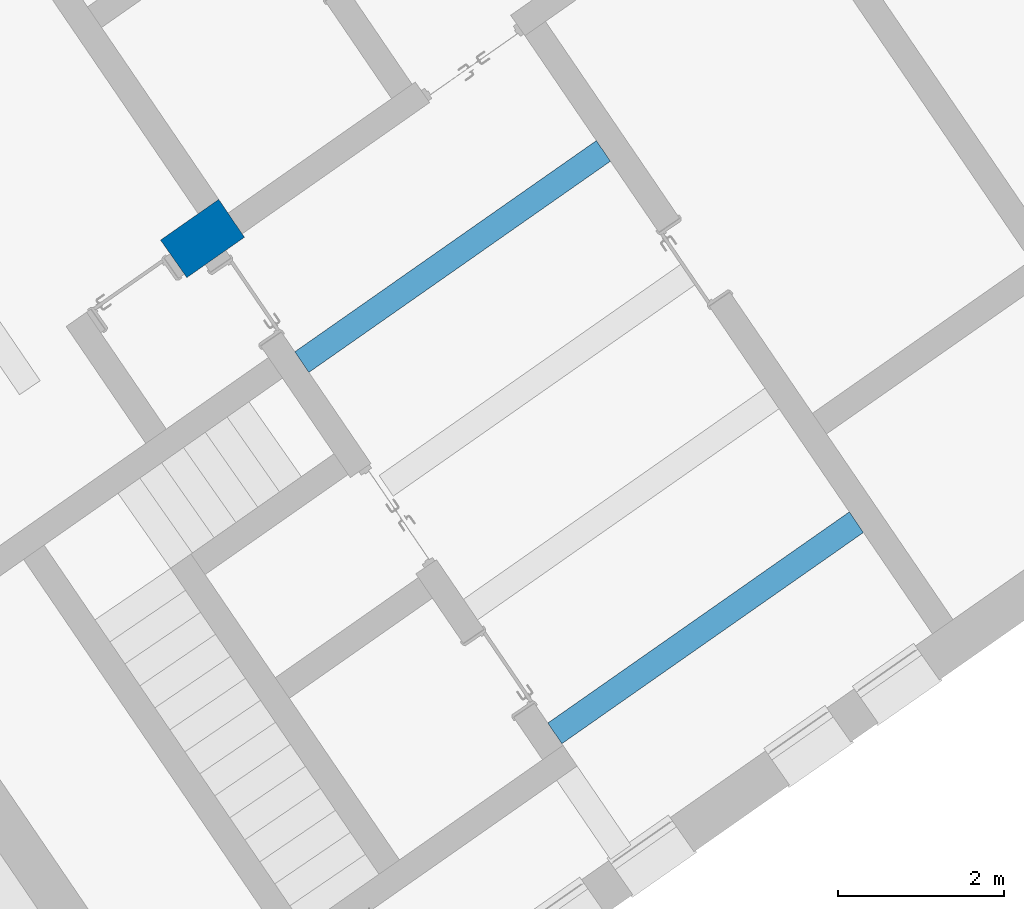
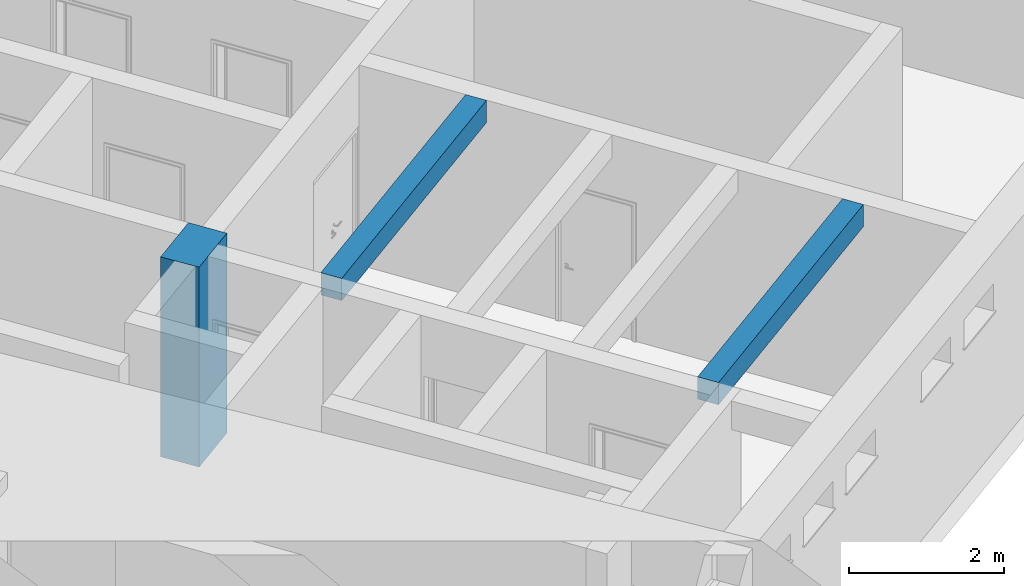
# One storey, part 44 of 112: 3 walls.
"""IFC2X3 building model written with IfcOpenShell, lengths in millimetres."""

import ifcopenshell
import ifcopenshell.guid

model = None  # the IFC model being written
_history = None  # IfcOwnerHistory: only IFC2X3 demands one
_inside = {}  # id of a spatial element -> (the spatial element, [elements in it])
_under = {}  # id of a project, library or spatial element -> (it, [spatial elements below it])
_declared = {}  # id of a project -> (the project, [libraries it declares])
_typed = {}  # id of a type object -> (the type object, [elements of that type])
_made_of = {}  # id of a material, layer set ... -> (it, [elements and type objects made of it])


def new_model(schema):
    """Start an empty IFC model of exactly this schema.

    Asked for "IFC4X3", IfcOpenShell would pick the latest addendum, in which some entities
    have other attributes; the version numbers below select the first issue.
    IFC2X3 requires an IfcOwnerHistory on every rooted entity: one is made here for all.
    """
    global model, _history
    if schema == "IFC4X3":
        model = ifcopenshell.file(schema_version=(4, 3, 0, 0))
    else:
        model = ifcopenshell.file(schema=schema)
    _inside.clear()
    _under.clear()
    _declared.clear()
    _typed.clear()
    _made_of.clear()
    _history = None
    if model.schema == "IFC2X3":
        org = make("IfcOrganization", Name="unknown")
        user = make(
            "IfcPersonAndOrganization",
            ThePerson=make("IfcPerson", FamilyName="unknown"),
            TheOrganization=org,
        )
        app = make(
            "IfcApplication",
            ApplicationDeveloper=org,
            Version="unknown",
            ApplicationFullName="unknown",
            ApplicationIdentifier="unknown",
        )
        _history = make(
            "IfcOwnerHistory",
            OwningUser=user,
            OwningApplication=app,
            ChangeAction="ADDED",
            CreationDate=0,
        )
    return model


def make(cls, **values):
    """One entity of the class cls with the attributes given. An attribute that is None is left unset."""
    return model.create_entity(
        cls, **{name: value for name, value in values.items() if value is not None}
    )


def entity(cls, *values):
    """Any entity or typed value of the class cls, its attributes in the order of the schema. None: left unset."""
    e = model.create_entity(cls)
    for i, value in enumerate(values):
        if value is not None:
            e[i] = value
    return e


def rooted(cls, **values):
    """An entity with a GlobalId (a new one), such as an element, a storey or a relation."""
    return make(cls, GlobalId=ifcopenshell.guid.new(), OwnerHistory=_history, **values)


def si_unit(unit_type, name, prefix=None):
    """IfcSIUnit, for example si_unit("LENGTHUNIT", "METRE", prefix="MILLI")."""
    return make("IfcSIUnit", UnitType=unit_type, Prefix=prefix, Name=name)


def converted_unit(unit_type, name, factor, base, dimensions=None, offset=None):
    """IfcConversionBasedUnit, such as the inch: factor (a typed value) times the base unit."""
    return make(
        "IfcConversionBasedUnit"
        if offset is None
        else "IfcConversionBasedUnitWithOffset",
        ConversionOffset=offset,
        Dimensions=None
        if dimensions is None
        else entity("IfcDimensionalExponents", *dimensions),
        UnitType=unit_type,
        Name=name,
        ConversionFactor=make(
            "IfcMeasureWithUnit", ValueComponent=factor, UnitComponent=base
        ),
    )


def derived_unit(unit_type, elements):
    """IfcDerivedUnit: a product of units, each with its exponent."""
    return make(
        "IfcDerivedUnit",
        Elements=[
            make("IfcDerivedUnitElement", Unit=unit, Exponent=power)
            for unit, power in elements
        ],
        UnitType=unit_type,
    )


def assignment(units):
    """IfcUnitAssignment: the units of a project."""
    return None if units is None else make("IfcUnitAssignment", Units=units)


def point(xyz):
    """IfcCartesianPoint."""
    return None if xyz is None else make("IfcCartesianPoint", Coordinates=xyz)


def direction(xyz):
    """IfcDirection."""
    return None if xyz is None else make("IfcDirection", DirectionRatios=xyz)


def frame(location, z_axis=None, x_axis=None):
    """IfcAxis2Placement3D, a coordinate frame: its origin and axes. An axis left out is left unset."""
    return make(
        "IfcAxis2Placement3D",
        Location=point(location),
        Axis=direction(z_axis),
        RefDirection=direction(x_axis),
    )


def origin():
    """The frame at (0, 0, 0) with its axes left unset."""
    return frame((0.0, 0.0, 0.0))


def place(relative_to, where):
    """IfcLocalPlacement: puts the frame where relative to a parent placement (None: the world)."""
    return make(
        "IfcLocalPlacement", PlacementRelTo=relative_to, RelativePlacement=where
    )


def context(
    kind, dimensions, precision=None, world=None, true_north=None, identifier=None
):
    """IfcGeometricRepresentationContext, for example the 3D "Model" context."""
    return make(
        "IfcGeometricRepresentationContext",
        ContextIdentifier=identifier,
        ContextType=kind,
        CoordinateSpaceDimension=dimensions,
        Precision=precision,
        WorldCoordinateSystem=world,
        TrueNorth=true_north,
    )


def subcontext(parent, identifier, kind, view, scale=None):
    """IfcGeometricRepresentationSubContext, for example "Body" below "Model"."""
    return make(
        "IfcGeometricRepresentationSubContext",
        ContextIdentifier=identifier,
        ContextType=kind,
        ParentContext=parent,
        TargetScale=scale,
        TargetView=view,
    )


def project(units=None, contexts=None):
    """IfcProject with its units and contexts."""
    return rooted(
        "IfcProject",
        Name="project",
        RepresentationContexts=contexts,
        UnitsInContext=assignment(units),
    )


def spatial(cls, under=None, at=None, **own):
    """A site, building, storey or space (cls), placed at a placement, below another one or the project."""
    s = rooted(cls, ObjectPlacement=at, **own)
    if under is not None:
        _under.setdefault(under.id(), (under, []))[1].append(s)
    return s


def polyline(points):
    """IfcPolyline through the points."""
    return make("IfcPolyline", Points=[point(p) for p in points])


def outline(outer, holes=None, kind="AREA"):
    """IfcArbitraryClosedProfileDef: a profile drawn as a closed curve; with holes, ...WithVoids."""
    if holes is None:
        return make("IfcArbitraryClosedProfileDef", ProfileType=kind, OuterCurve=outer)
    return make(
        "IfcArbitraryProfileDefWithVoids",
        ProfileType=kind,
        OuterCurve=outer,
        InnerCurves=holes,
    )


def extrude(swept, where, along, depth):
    """IfcExtrudedAreaSolid: the profile swept, set in the frame where, extruded along a direction by depth."""
    return make(
        "IfcExtrudedAreaSolid",
        SweptArea=swept,
        Position=where,
        ExtrudedDirection=direction(along),
        Depth=depth,
    )


def shape(context_of_items, identifier, shape_type, items):
    """IfcShapeRepresentation: the items that make up one representation, for example the "Body"."""
    return make(
        "IfcShapeRepresentation",
        ContextOfItems=context_of_items,
        RepresentationIdentifier=identifier,
        RepresentationType=shape_type,
        Items=items,
    )


def material(Name=None, Category=None):
    """IfcMaterial."""
    return make("IfcMaterial", Name=Name, Category=Category)


def layer(
    of_material, thickness, ventilated=None, Name=None, Category=None, Priority=None
):
    """IfcMaterialLayer: one layer of a wall or slab, of a material (None: an air gap)."""
    return make(
        "IfcMaterialLayer",
        Material=of_material,
        LayerThickness=thickness,
        IsVentilated=ventilated,
        Name=Name,
        Category=Category,
        Priority=Priority,
    )


def layer_set(layers, Name=None):
    """IfcMaterialLayerSet."""
    return make("IfcMaterialLayerSet", MaterialLayers=layers, LayerSetName=Name)


def layer_usage(for_layer_set, set_direction, sense, offset, extent=None):
    """IfcMaterialLayerSetUsage: how a layer set lies in its element."""
    return make(
        "IfcMaterialLayerSetUsage",
        ForLayerSet=for_layer_set,
        LayerSetDirection=set_direction,
        DirectionSense=sense,
        OffsetFromReferenceLine=offset,
        ReferenceExtent=extent,
    )


def made_of(thing, what):
    """Note that an element or type object is made of a material, layer set ...; save() writes the relation."""
    if what is not None:
        _made_of.setdefault(what.id(), (what, []))[1].append(thing)
    return thing


def type_object(cls, material=None, **own):
    """A type object (cls), such as IfcWallType, which elements share."""
    return made_of(rooted(cls, **own), material)


def element(
    cls,
    number,
    at=None,
    inside=None,
    cuts=None,
    type_object=None,
    material=None,
    context=None,
    identifier="Body",
    shape_type=None,
    held_by="IfcProductDefinitionShape",
    body=None,
    shapes=None,
    **own,
):
    """One element of the class cls, such as IfcWall. Its Tag is "e" and its number.

    at: its placement. inside: the storey or other place that contains it. cuts: it is an
    opening in that element (IfcRelVoidsElement). A single representation is given by context,
    identifier, shape_type and body (its items); several are given by shapes. held_by: the class
    of the entity that holds the representations. save() writes the other relations.
    """
    e = rooted(cls, Tag="e%d" % number, ObjectPlacement=at, **own)
    if body is not None:
        shapes = [shape(context, identifier, shape_type, body)]
    if shapes is not None:
        e.Representation = make(held_by, Representations=shapes)
    if inside is not None:
        _inside.setdefault(inside.id(), (inside, []))[1].append(e)
    if cuts is not None:
        rooted(
            "IfcRelVoidsElement", RelatingBuildingElement=cuts, RelatedOpeningElement=e
        )
    if type_object is not None:
        _typed.setdefault(type_object.id(), (type_object, []))[1].append(e)
    return made_of(e, material)


def aggregate(whole, parts):
    """IfcRelAggregates: a whole, such as a stair, and the parts it consists of."""
    return rooted("IfcRelAggregates", RelatingObject=whole, RelatedObjects=parts)


def save(model, path):
    """Write the relations noted so far, then the file.

    IfcRelAggregates (storeys below a building ...), IfcRelContainedInSpatialStructure (elements
    in a storey), IfcRelDefinesByType, IfcRelAssociatesMaterial and IfcRelDeclares: one each for
    every whole, place, type object, material and project.
    """
    for whole, parts in _under.values():
        aggregate(whole, parts)
    for where, things in _inside.values():
        rooted(
            "IfcRelContainedInSpatialStructure",
            RelatedElements=things,
            RelatingStructure=where,
        )
    for kind, things in _typed.values():
        rooted("IfcRelDefinesByType", RelatedObjects=things, RelatingType=kind)
    for what, things in _made_of.values():
        rooted("IfcRelAssociatesMaterial", RelatedObjects=things, RelatingMaterial=what)
    for by, libraries in _declared.values():
        rooted("IfcRelDeclares", RelatingContext=by, RelatedDefinitions=libraries)
    model.write(path)


model = new_model("IFC2X3")

# Units and contexts
model_context = context("Model", 3, precision=0.01, world=origin(), true_north=direction((6.123031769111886e-17, 1.0)))
body_context = subcontext(model_context, "Body", "Model", "MODEL_VIEW")
ifc_project = project(units=[si_unit("LENGTHUNIT", "METRE", prefix="MILLI"), si_unit("AREAUNIT", "SQUARE_METRE"), si_unit("VOLUMEUNIT", "CUBIC_METRE"), converted_unit("PLANEANGLEUNIT", "DEGREE", entity("IfcRatioMeasure", 0.017453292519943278), si_unit("PLANEANGLEUNIT", "RADIAN"), dimensions=[0, 0, 0, 0, 0, 0, 0]), si_unit("MASSUNIT", "GRAM", prefix="KILO"), derived_unit("MASSDENSITYUNIT", [(si_unit("MASSUNIT", "GRAM", prefix="KILO"), 1), (si_unit("LENGTHUNIT", "METRE"), -3)]), derived_unit("MOMENTOFINERTIAUNIT", [(si_unit("LENGTHUNIT", "METRE"), 4)]), si_unit("TIMEUNIT", "SECOND"), si_unit("FREQUENCYUNIT", "HERTZ"), si_unit("THERMODYNAMICTEMPERATUREUNIT", "DEGREE_CELSIUS"), derived_unit("THERMALTRANSMITTANCEUNIT", [(si_unit("MASSUNIT", "GRAM", prefix="KILO"), 1), (si_unit("THERMODYNAMICTEMPERATUREUNIT", "KELVIN"), -1), (si_unit("TIMEUNIT", "SECOND"), -3)]), derived_unit("THERMALCONDUCTANCEUNIT", [(si_unit("MASSUNIT", "GRAM", prefix="KILO"), 1), (si_unit("LENGTHUNIT", "METRE"), 1), (si_unit("THERMODYNAMICTEMPERATUREUNIT", "KELVIN"), -1), (si_unit("TIMEUNIT", "SECOND"), -3)]), derived_unit("VOLUMETRICFLOWRATEUNIT", [(si_unit("LENGTHUNIT", "METRE"), 3), (si_unit("TIMEUNIT", "SECOND"), -1)]), derived_unit("MASSFLOWRATEUNIT", [(si_unit("MASSUNIT", "GRAM", prefix="KILO"), 1), (si_unit("TIMEUNIT", "SECOND"), -1)]), derived_unit("ROTATIONALFREQUENCYUNIT", [(si_unit("TIMEUNIT", "SECOND"), -1)]), si_unit("ELECTRICCURRENTUNIT", "AMPERE"), si_unit("ELECTRICVOLTAGEUNIT", "VOLT"), si_unit("POWERUNIT", "WATT"), converted_unit("FORCEUNIT", "KIP", entity("IfcRatioMeasure", 2.088543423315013e-05), si_unit("FORCEUNIT", "NEWTON"), dimensions=[1, 1, -2, 0, 0, 0, 0]), si_unit("ILLUMINANCEUNIT", "LUX"), si_unit("LUMINOUSFLUXUNIT", "LUMEN"), si_unit("LUMINOUSINTENSITYUNIT", "CANDELA"), derived_unit("USERDEFINED", [(si_unit("MASSUNIT", "GRAM", prefix="KILO"), -1), (si_unit("LENGTHUNIT", "METRE"), -2), (si_unit("TIMEUNIT", "SECOND"), 3), (si_unit("LUMINOUSFLUXUNIT", "LUMEN"), 1)]), derived_unit("USERDEFINED", [(si_unit("MASSUNIT", "GRAM", prefix="KILO"), 1), (si_unit("LENGTHUNIT", "METRE"), 3), (si_unit("TIMEUNIT", "SECOND"), -3), (si_unit("ELECTRICCURRENTUNIT", "AMPERE"), -2)]), derived_unit("USERDEFINED", [(si_unit("LENGTHUNIT", "METRE"), 2), (si_unit("TIMEUNIT", "SECOND"), -2)]), derived_unit("SOUNDPOWERUNIT", [(si_unit("MASSUNIT", "GRAM", prefix="KILO"), 1), (si_unit("LENGTHUNIT", "METRE"), 2), (si_unit("TIMEUNIT", "SECOND"), -3)]), derived_unit("SOUNDPRESSUREUNIT", [(si_unit("MASSUNIT", "GRAM", prefix="KILO"), 1), (si_unit("LENGTHUNIT", "METRE"), -1), (si_unit("TIMEUNIT", "SECOND"), -2)]), derived_unit("LINEARVELOCITYUNIT", [(si_unit("LENGTHUNIT", "METRE"), 1), (si_unit("TIMEUNIT", "SECOND"), -1)]), si_unit("PRESSUREUNIT", "PASCAL"), derived_unit("USERDEFINED", [(si_unit("LENGTHUNIT", "METRE"), -2), (si_unit("MASSUNIT", "GRAM", prefix="KILO"), 1), (si_unit("TIMEUNIT", "SECOND"), -2)]), derived_unit("LINEARFORCEUNIT", [(si_unit("MASSUNIT", "GRAM", prefix="KILO"), 1), (si_unit("LENGTHUNIT", "METRE"), 1), (si_unit("TIMEUNIT", "SECOND"), -2), (si_unit("LENGTHUNIT", "METRE"), -1)]), derived_unit("PLANARFORCEUNIT", [(si_unit("MASSUNIT", "GRAM", prefix="KILO"), 1), (si_unit("LENGTHUNIT", "METRE"), 1), (si_unit("TIMEUNIT", "SECOND"), -2), (si_unit("LENGTHUNIT", "METRE"), -2)]), derived_unit("SPECIFICHEATCAPACITYUNIT", [(si_unit("LENGTHUNIT", "METRE"), 2), (si_unit("TIMEUNIT", "SECOND"), -2), (si_unit("THERMODYNAMICTEMPERATUREUNIT", "KELVIN"), -1)]), derived_unit("VAPORPERMEABILITYUNIT", [(si_unit("TIMEUNIT", "SECOND"), 1), (si_unit("LENGTHUNIT", "METRE"), -1)]), derived_unit("DYNAMICVISCOSITYUNIT", [(si_unit("MASSUNIT", "GRAM", prefix="KILO"), 1), (si_unit("LENGTHUNIT", "METRE"), -1), (si_unit("TIMEUNIT", "SECOND"), -1)]), derived_unit("THERMALEXPANSIONCOEFFICIENTUNIT", [(si_unit("THERMODYNAMICTEMPERATUREUNIT", "KELVIN"), -1)])], contexts=[model_context])

# Site, building, storey
site_placement = place(None, frame((0.0, 0.0, 0.0), z_axis=(0.0, 0.0, 1.0), x_axis=(0.8191520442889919, 0.5735764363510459, 0.0)))
site = spatial("IfcSite", under=ifc_project, at=site_placement, Name="Default", CompositionType="ELEMENT")
building_placement = place(site_placement, origin())
building = spatial("IfcBuilding", under=site, at=building_placement, CompositionType="ELEMENT")
storey_placement = place(building_placement, frame((0.0, 0.0, -3600.0)))
storey = spatial("IfcBuildingStorey", under=building, at=storey_placement, Name="0.UG -3.60", CompositionType="ELEMENT", Elevation=-3600.0000000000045)

# Walls
ifc_material = material(Name="Analytical Wall Surface_CJC")
ifc_layer_1 = layer(ifc_material, 300.0)
ifc_layer_set_1 = layer_set([ifc_layer_1], Name="Basic Wall:Wand_Innen_30")
ifc_layer_usage_1 = layer_usage(ifc_layer_set_1, "AXIS2", "NEGATIVE", 150.0)
wall_type_1 = type_object("IfcWallType", Name="Basic Wall:Wand_Innen_30", PredefinedType="STANDARD", material=ifc_layer_set_1)
wall_1_placement = place(storey_placement, frame((-213059.69523089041, 59596.358914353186, 3100.0), z_axis=(0.0, 0.0, 1.0), x_axis=(-1.0, 0.0, 0.0)))
element("IfcWallStandardCase", 1, at=wall_1_placement, inside=storey, type_object=wall_type_1, material=ifc_layer_usage_1, Name="Basic Wall:Wand_Innen_30", ObjectType="Basic Wall:Wand_Innen_30", context=body_context, shape_type="SweptSolid", body=[
    extrude(outline(polyline([(4425.3585623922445, -150.0), (4429.177748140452, 150.0), (3.819185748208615, 150.0), (0.0, -150.0), (4425.3585623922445, -150.0)])), origin(), (0.0, 0.0, 1.0), 350.0),
])
wall_2_placement = place(storey_placement, frame((-213128.44057435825, 54196.358914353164, 3100.0), z_axis=(0.0, 0.0, 1.0), x_axis=(-1.0, 0.0, 0.0)))
element("IfcWallStandardCase", 2, at=wall_2_placement, inside=storey, type_object=wall_type_1, material=ifc_layer_usage_1, Name="Basic Wall:Wand_Innen_30", ObjectType="Basic Wall:Wand_Innen_30", context=body_context, shape_type="SweptSolid", body=[
    extrude(outline(polyline([(4425.358562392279, -150.0), (4429.1777481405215, 150.0), (3.8191857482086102, 150.0), (0.0, -150.0), (4425.358562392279, -150.0)])), origin(), (0.0, 0.0, 1.0), 350.0),
])
ifc_layer_2 = layer(ifc_material, 550.0)
ifc_layer_set_2 = layer_set([ifc_layer_2], Name="Basic Wall:Wand_Innen_55")
ifc_layer_usage_2 = layer_usage(ifc_layer_set_2, "AXIS2", "NEGATIVE", 275.0)
wall_type_2 = type_object("IfcWallType", Name="Basic Wall:Wand_Innen_55", PredefinedType="STANDARD", material=ifc_layer_set_2)
wall_3_placement = place(storey_placement, frame((-218036.85485151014, 61496.35891435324, 300.0)))
element("IfcWallStandardCase", 3, at=wall_3_placement, inside=storey, type_object=wall_type_2, material=ifc_layer_usage_2, Name="Basic Wall:Wand_Innen_55", ObjectType="Basic Wall:Wand_Innen_55", context=body_context, shape_type="SweptSolid", body=[
    extrude(outline(polyline([(845.6131596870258, -275.0), (846.249690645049, -225.0), (850.0688763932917, 75.0), (852.615000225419, 275.0), (552.5906909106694, 275.0), (0.0, 275.0), (0.0, 75.0), (0.0, -225.0), (0.0, -275.0), (845.6131596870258, -275.0)])), origin(), (0.0, 0.0, 1.0), 3150.0),
])

save(model, "model.ifc")
